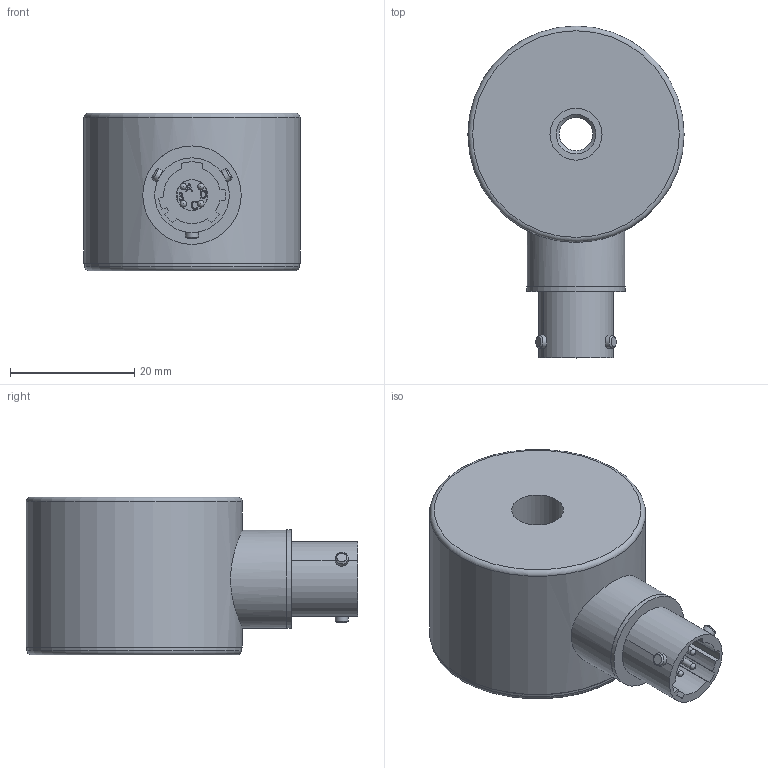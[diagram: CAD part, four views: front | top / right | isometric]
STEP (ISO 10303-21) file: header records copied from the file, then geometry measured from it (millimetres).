
FILE_DESCRIPTION(/* description */ (''),/* implementation_level */ '2;1');
FILE_NAME(/* name */ 'C:\Users\jfriend\Desktop\----Step files\Meredith Christman\604B31\604B31.stp',/* time_stamp */ '2019-12-11T10:30:36-05:00',/* author */ ('jfriend'),/* organization */ (''),/* preprocessor_version */ 'ST-DEVELOPER v17',/* originating_system */ 'Autodesk Inventor 2019',/* authorisation */ '');
FILE_SCHEMA (('AUTOMOTIVE_DESIGN { 1 0 10303 214 3 1 1 }'));
Length unit declared in the file: inch
Products named in the file (1): 604B31 ENVELOPE
Bounding box: 34.8 x 53.4 x 25.4 mm (x, y, z)
Volume: 25390.1 mm3; surface area: 6398.9 mm2
Topology: 4 solids, 4 shells, 83 faces, 261 edges, 200 vertices
Faces by surface type: plane 39, cylinder 33, cone 5, sphere 4, torus 2
Full cylindrical faces by diameter (mm): 1.029 x4, 2.108 x3, 5.359 x1, 6.528 x1, 7.645 x1, 7.671 x1, 8.382 x1, 9.144 x1, 15.748 x1, 15.85 x1, 34.544 x1, 34.798 x1
Entity records: 3299 total; most frequent: CARTESIAN_POINT 699, ORIENTED_EDGE 526, DIRECTION 504, EDGE_CURVE 263, VERTEX_POINT 204, AXIS2_PLACEMENT_3D 197, CIRCLE 113, LINE 110
